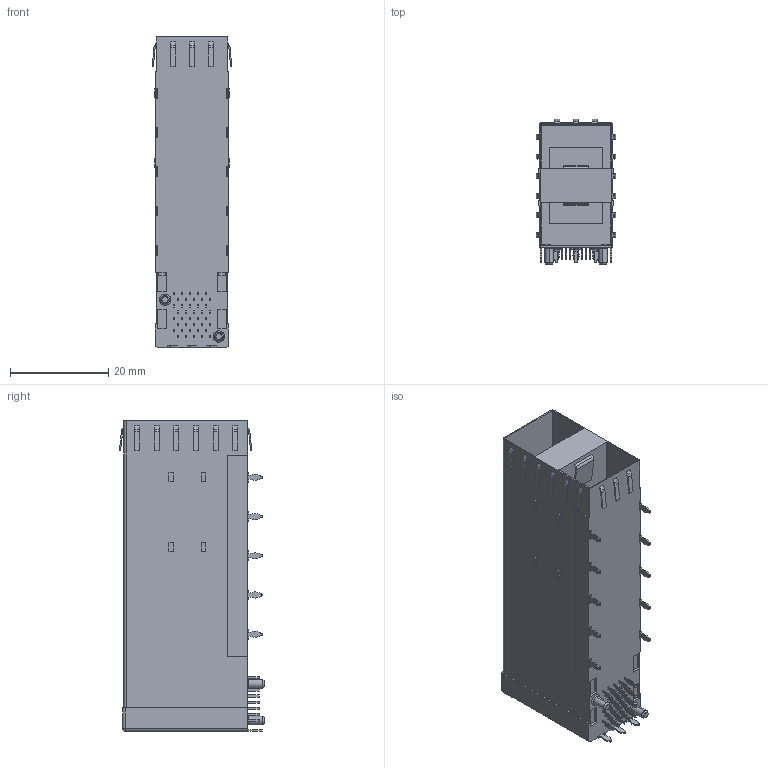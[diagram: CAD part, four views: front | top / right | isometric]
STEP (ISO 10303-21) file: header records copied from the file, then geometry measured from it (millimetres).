
FILE_DESCRIPTION(/* description */ (''),/* implementation_level */ '2;1');
FILE_NAME(/* name */ 'SFP 2X1 无月牙 无灯 3D 20260602.stp',/* time_stamp */ '2026-06-02T09:05:43+08:00',/* author */ (''),/* organization */ (''),/* preprocessor_version */ 'ST-DEVELOPER v16.7',/* originating_system */ 'SIEMENS PLM Software NX 1847',/* authorisation */ '');
FILE_SCHEMA (('AUTOMOTIVE_DESIGN { 1 0 10303 214 3 1 1 1 }'));
Length unit declared in the file: millimetre
Products named in the file (1): Admi2C2C19A0zc6i
Bounding box: 16.3 x 29.6 x 63.25 mm (x, y, z)
Volume: 12095.2 mm3; surface area: 10997.8 mm2
Topology: 1 solids, 1 shells, 786 faces, 2100 edges, 1394 vertices
Faces by surface type: plane 574, cylinder 202, cone 8, sphere 2
Entity records: 24401 total; most frequent: CARTESIAN_POINT 4280, ORIENTED_EDGE 4196, DIRECTION 4086, EDGE_CURVE 2098, LINE 1686, VECTOR 1686, VERTEX_POINT 1394, AXIS2_PLACEMENT_3D 1200
